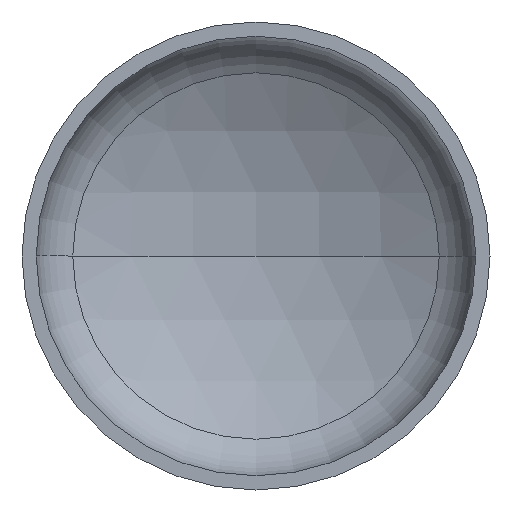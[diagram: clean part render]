
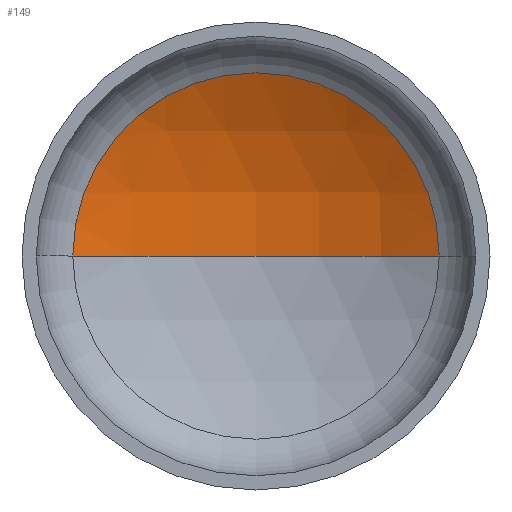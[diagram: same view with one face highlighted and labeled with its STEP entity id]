
A CAD part, front view. The second image highlights one B-rep face of the part: STEP entity #149.
In plain terms, the highlighted spherical face has radius 1520 mm.
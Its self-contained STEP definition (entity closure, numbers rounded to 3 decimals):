
#22 = ORIENTED_EDGE ( 'NONE', *, *, #237, .F. ) ;
#28 = DIRECTION ( 'NONE',  ( 1., 0., 0. ) ) ;
#29 = EDGE_CURVE ( 'NONE', #103, #83, #76, .T. ) ;
#37 = DIRECTION ( 'NONE',  ( 0., 0., 1. ) ) ;
#42 = VERTEX_POINT ( 'NONE', #311 ) ;
#75 = CARTESIAN_POINT ( 'NONE',  ( 743.935, 372.892, 0. ) ) ;
#76 = CIRCLE ( 'NONE', #391, 743.935 ) ;
#83 = VERTEX_POINT ( 'NONE', #95 ) ;
#86 = CARTESIAN_POINT ( 'NONE',  ( 0., -952.612, 0. ) ) ;
#95 = CARTESIAN_POINT ( 'NONE',  ( -743.935, 372.892, 0. ) ) ;
#103 = VERTEX_POINT ( 'NONE', #75 ) ;
#109 = CIRCLE ( 'NONE', #372, 1520. ) ;
#138 = ORIENTED_EDGE ( 'NONE', *, *, #29, .T. ) ;
#144 = EDGE_LOOP ( 'NONE', ( #22, #350, #138 ) ) ;
#149 = ADVANCED_FACE ( 'NONE', ( #302 ), #227, .F. ) ;
#166 = AXIS2_PLACEMENT_3D ( 'NONE', #342, #190, #340 ) ;
#190 = DIRECTION ( 'NONE',  ( 0., 0., -1. ) ) ;
#203 = CARTESIAN_POINT ( 'NONE',  ( 0., 372.892, 0. ) ) ;
#227 = SPHERICAL_SURFACE ( 'NONE', #166, 1520. ) ;
#237 = EDGE_CURVE ( 'NONE', #42, #83, #353, .T. ) ;
#254 = DIRECTION ( 'NONE',  ( -1., 0., 0. ) ) ;
#272 = DIRECTION ( 'NONE',  ( 1., 0., 0. ) ) ;
#281 = EDGE_CURVE ( 'NONE', #42, #103, #109, .T. ) ;
#285 = DIRECTION ( 'NONE',  ( 0., -1., 0. ) ) ;
#297 = CARTESIAN_POINT ( 'NONE',  ( 0., -952.612, 0. ) ) ;
#302 = FACE_OUTER_BOUND ( 'NONE', #144, .T. ) ;
#311 = CARTESIAN_POINT ( 'NONE',  ( 0., 567.388, 0. ) ) ;
#322 = AXIS2_PLACEMENT_3D ( 'NONE', #86, #37, #28 ) ;
#328 = DIRECTION ( 'NONE',  ( 0., 0., -1. ) ) ;
#340 = DIRECTION ( 'NONE',  ( -1., 0., 0. ) ) ;
#342 = CARTESIAN_POINT ( 'NONE',  ( 0., -952.612, 0. ) ) ;
#350 = ORIENTED_EDGE ( 'NONE', *, *, #281, .T. ) ;
#353 = CIRCLE ( 'NONE', #322, 1520. ) ;
#372 = AXIS2_PLACEMENT_3D ( 'NONE', #297, #328, #254 ) ;
#391 = AXIS2_PLACEMENT_3D ( 'NONE', #203, #285, #272 ) ;
